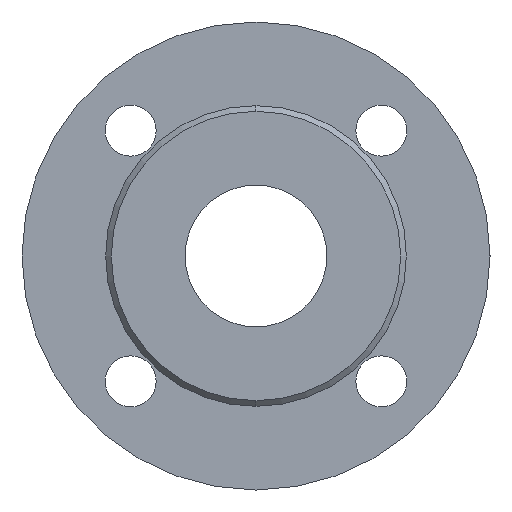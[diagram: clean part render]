
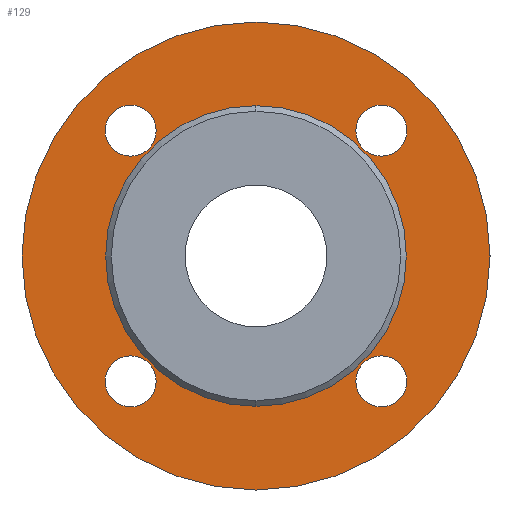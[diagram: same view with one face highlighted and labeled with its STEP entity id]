
A CAD part, left-side view. The second image highlights one B-rep face of the part: STEP entity #129.
In plain terms, the highlighted planar face has unit normal (-1, 0, 0).
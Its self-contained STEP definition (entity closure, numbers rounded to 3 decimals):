
#129=ADVANCED_FACE('',(#274,#275,#276,#277,#278,#279),#280,.F.);
#274=FACE_BOUND('',#474,.T.);
#275=FACE_BOUND('',#475,.T.);
#276=FACE_BOUND('',#476,.T.);
#277=FACE_BOUND('',#477,.T.);
#278=FACE_BOUND('',#478,.T.);
#279=FACE_OUTER_BOUND('',#479,.T.);
#280=PLANE('',#480);
#474=EDGE_LOOP('',(#691,#692));
#475=EDGE_LOOP('',(#693,#694));
#476=EDGE_LOOP('',(#695,#696));
#477=EDGE_LOOP('',(#697,#698));
#478=EDGE_LOOP('',(#699,#700));
#479=EDGE_LOOP('',(#701,#702));
#480=AXIS2_PLACEMENT_3D('',#703,#704,#705);
#691=ORIENTED_EDGE('',*,*,#1042,.T.);
#692=ORIENTED_EDGE('',*,*,#1063,.T.);
#693=ORIENTED_EDGE('',*,*,#1064,.T.);
#694=ORIENTED_EDGE('',*,*,#1065,.T.);
#695=ORIENTED_EDGE('',*,*,#1066,.T.);
#696=ORIENTED_EDGE('',*,*,#1067,.T.);
#697=ORIENTED_EDGE('',*,*,#1047,.T.);
#698=ORIENTED_EDGE('',*,*,#1068,.T.);
#699=ORIENTED_EDGE('',*,*,#1037,.T.);
#700=ORIENTED_EDGE('',*,*,#1069,.T.);
#701=ORIENTED_EDGE('',*,*,#1030,.F.);
#702=ORIENTED_EDGE('',*,*,#1070,.F.);
#703=CARTESIAN_POINT('',(2.0,0.0,0.));
#704=DIRECTION('',(1.0,0.0,0.));
#705=DIRECTION('',(0.,0.0,-1.0));
#1030=EDGE_CURVE('',#1196,#1199,#1200,.T.);
#1037=EDGE_CURVE('',#1206,#1210,#1212,.T.);
#1042=EDGE_CURVE('',#1215,#1219,#1221,.T.);
#1047=EDGE_CURVE('',#1224,#1228,#1230,.T.);
#1063=EDGE_CURVE('',#1219,#1215,#1254,.T.);
#1064=EDGE_CURVE('',#1255,#1256,#1257,.T.);
#1065=EDGE_CURVE('',#1256,#1255,#1258,.T.);
#1066=EDGE_CURVE('',#1259,#1260,#1261,.T.);
#1067=EDGE_CURVE('',#1260,#1259,#1262,.T.);
#1068=EDGE_CURVE('',#1228,#1224,#1263,.T.);
#1069=EDGE_CURVE('',#1210,#1206,#1264,.T.);
#1070=EDGE_CURVE('',#1199,#1196,#1265,.T.);
#1196=VERTEX_POINT('',#1429);
#1199=VERTEX_POINT('',#1433);
#1200=CIRCLE('',#1434,82.5);
#1206=VERTEX_POINT('',#1441);
#1210=VERTEX_POINT('',#1446);
#1212=CIRCLE('',#1449,9.0);
#1215=VERTEX_POINT('',#1452);
#1219=VERTEX_POINT('',#1457);
#1221=CIRCLE('',#1460,25.0);
#1224=VERTEX_POINT('',#1463);
#1228=VERTEX_POINT('',#1468);
#1230=CIRCLE('',#1471,9.0);
#1254=CIRCLE('',#1497,25.0);
#1255=VERTEX_POINT('',#1498);
#1256=VERTEX_POINT('',#1499);
#1257=CIRCLE('',#1500,9.0);
#1258=CIRCLE('',#1501,9.0);
#1259=VERTEX_POINT('',#1502);
#1260=VERTEX_POINT('',#1503);
#1261=CIRCLE('',#1504,9.0);
#1262=CIRCLE('',#1505,9.0);
#1263=CIRCLE('',#1506,9.0);
#1264=CIRCLE('',#1507,9.0);
#1265=CIRCLE('',#1508,82.5);
#1429=CARTESIAN_POINT('',(2.0,0.0,-82.5));
#1433=CARTESIAN_POINT('',(2.,0.,82.5));
#1434=AXIS2_PLACEMENT_3D('',#1699,#1700,#1701);
#1441=CARTESIAN_POINT('',(2.0,-44.194,-53.194));
#1446=CARTESIAN_POINT('',(2.0,-44.194,-35.194));
#1449=AXIS2_PLACEMENT_3D('',#1711,#1712,#1713);
#1452=CARTESIAN_POINT('',(2.0,0.0,-25.0));
#1457=CARTESIAN_POINT('',(2.0,0.,25.0));
#1460=AXIS2_PLACEMENT_3D('',#1719,#1720,#1721);
#1463=CARTESIAN_POINT('',(2.0,-44.194,35.194));
#1468=CARTESIAN_POINT('',(2.0,-44.194,53.194));
#1471=AXIS2_PLACEMENT_3D('',#1727,#1728,#1729);
#1497=AXIS2_PLACEMENT_3D('',#1762,#1763,#1764);
#1498=CARTESIAN_POINT('',(2.0,44.194,-53.194));
#1499=CARTESIAN_POINT('',(2.0,44.194,-35.194));
#1500=AXIS2_PLACEMENT_3D('',#1765,#1766,#1767);
#1501=AXIS2_PLACEMENT_3D('',#1768,#1769,#1770);
#1502=CARTESIAN_POINT('',(2.0,44.194,35.194));
#1503=CARTESIAN_POINT('',(2.0,44.194,53.194));
#1504=AXIS2_PLACEMENT_3D('',#1771,#1772,#1773);
#1505=AXIS2_PLACEMENT_3D('',#1774,#1775,#1776);
#1506=AXIS2_PLACEMENT_3D('',#1777,#1778,#1779);
#1507=AXIS2_PLACEMENT_3D('',#1780,#1781,#1782);
#1508=AXIS2_PLACEMENT_3D('',#1783,#1784,#1785);
#1699=CARTESIAN_POINT('',(2.0,0.0,0.));
#1700=DIRECTION('',(1.0,0.0,0.));
#1701=DIRECTION('',(0.,0.0,-1.0));
#1711=CARTESIAN_POINT('',(2.0,-44.194,-44.194));
#1712=DIRECTION('',(1.0,0.0,0.));
#1713=DIRECTION('',(0.,0.0,-1.0));
#1719=CARTESIAN_POINT('',(2.0,0.0,0.));
#1720=DIRECTION('',(1.0,0.0,0.));
#1721=DIRECTION('',(0.,0.0,-1.0));
#1727=CARTESIAN_POINT('',(2.0,-44.194,44.194));
#1728=DIRECTION('',(1.0,0.0,0.));
#1729=DIRECTION('',(0.,0.0,-1.0));
#1762=CARTESIAN_POINT('',(2.0,0.0,0.));
#1763=DIRECTION('',(1.0,0.0,0.));
#1764=DIRECTION('',(0.,0.0,-1.0));
#1765=CARTESIAN_POINT('',(2.0,44.194,-44.194));
#1766=DIRECTION('',(1.0,0.0,0.));
#1767=DIRECTION('',(0.,0.0,-1.0));
#1768=CARTESIAN_POINT('',(2.0,44.194,-44.194));
#1769=DIRECTION('',(1.0,0.0,0.));
#1770=DIRECTION('',(0.,0.0,-1.0));
#1771=CARTESIAN_POINT('',(2.0,44.194,44.194));
#1772=DIRECTION('',(1.0,0.0,0.));
#1773=DIRECTION('',(0.,0.0,-1.0));
#1774=CARTESIAN_POINT('',(2.0,44.194,44.194));
#1775=DIRECTION('',(1.0,0.0,0.));
#1776=DIRECTION('',(0.,0.0,-1.0));
#1777=CARTESIAN_POINT('',(2.0,-44.194,44.194));
#1778=DIRECTION('',(1.0,0.0,0.));
#1779=DIRECTION('',(0.,0.0,-1.0));
#1780=CARTESIAN_POINT('',(2.0,-44.194,-44.194));
#1781=DIRECTION('',(1.0,0.0,0.));
#1782=DIRECTION('',(0.,0.0,-1.0));
#1783=CARTESIAN_POINT('',(2.0,0.0,0.));
#1784=DIRECTION('',(1.0,0.0,0.));
#1785=DIRECTION('',(0.,0.0,-1.0));
